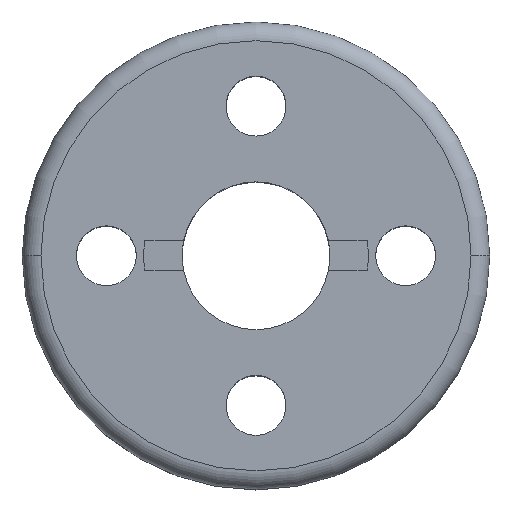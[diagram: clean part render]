
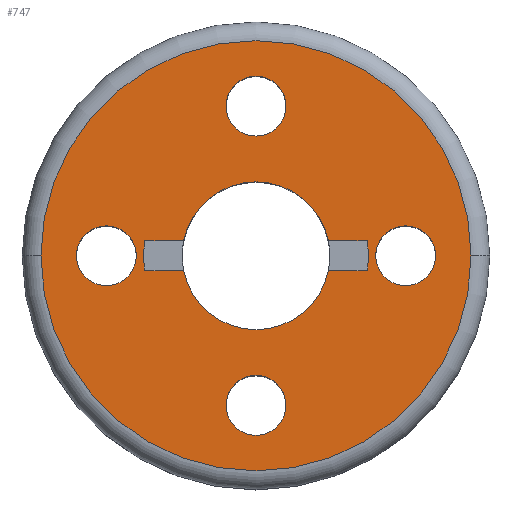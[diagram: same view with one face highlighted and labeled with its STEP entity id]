
A CAD part, top view. The second image highlights one B-rep face of the part: STEP entity #747.
In plain terms, the highlighted planar face has unit normal (0, 0, 1).
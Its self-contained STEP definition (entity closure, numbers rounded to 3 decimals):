
#48=AXIS2_PLACEMENT_3D('Circle Axis2P3D',#46,#47,$) ;
#115=AXIS2_PLACEMENT_3D('Circle Axis2P3D',#113,#114,$) ;
#176=AXIS2_PLACEMENT_3D('Circle Axis2P3D',#174,#175,$) ;
#195=AXIS2_PLACEMENT_3D('Circle Axis2P3D',#193,#194,$) ;
#280=AXIS2_PLACEMENT_3D('Circle Axis2P3D',#278,#279,$) ;
#306=AXIS2_PLACEMENT_3D('Circle Axis2P3D',#304,#305,$) ;
#488=AXIS2_PLACEMENT_3D('Circle Axis2P3D',#486,#487,$) ;
#514=AXIS2_PLACEMENT_3D('Circle Axis2P3D',#512,#513,$) ;
#531=AXIS2_PLACEMENT_3D('Circle Axis2P3D',#529,#530,$) ;
#557=AXIS2_PLACEMENT_3D('Circle Axis2P3D',#555,#556,$) ;
#574=AXIS2_PLACEMENT_3D('Circle Axis2P3D',#572,#573,$) ;
#600=AXIS2_PLACEMENT_3D('Circle Axis2P3D',#598,#599,$) ;
#617=AXIS2_PLACEMENT_3D('Circle Axis2P3D',#615,#616,$) ;
#643=AXIS2_PLACEMENT_3D('Circle Axis2P3D',#641,#642,$) ;
#699=AXIS2_PLACEMENT_3D('Plane Axis2P3D',#696,#697,#698) ;
#703=AXIS2_PLACEMENT_3D('Circle Axis2P3D',#701,#702,$) ;
#712=AXIS2_PLACEMENT_3D('Circle Axis2P3D',#710,#711,$) ;
#43=CARTESIAN_POINT('Vertex',(3.868,0.8,14.)) ;
#46=CARTESIAN_POINT('Axis2P3D Location',(0.,0.,14.)) ;
#50=CARTESIAN_POINT('Vertex',(-3.868,0.8,14.)) ;
#110=CARTESIAN_POINT('Vertex',(-3.868,-0.8,14.)) ;
#113=CARTESIAN_POINT('Axis2P3D Location',(0.,0.,14.)) ;
#117=CARTESIAN_POINT('Vertex',(3.868,-0.8,14.)) ;
#171=CARTESIAN_POINT('Vertex',(-6.,0.,14.)) ;
#174=CARTESIAN_POINT('Axis2P3D Location',(0.,0.,14.)) ;
#178=CARTESIAN_POINT('Vertex',(-5.946,-0.8,14.)) ;
#193=CARTESIAN_POINT('Axis2P3D Location',(0.,0.,14.)) ;
#197=CARTESIAN_POINT('Vertex',(-5.946,0.8,14.)) ;
#278=CARTESIAN_POINT('Axis2P3D Location',(0.,0.,14.)) ;
#282=CARTESIAN_POINT('Vertex',(5.946,-0.8,14.)) ;
#284=CARTESIAN_POINT('Vertex',(6.,0.,14.)) ;
#304=CARTESIAN_POINT('Axis2P3D Location',(0.,0.,14.)) ;
#308=CARTESIAN_POINT('Vertex',(5.946,0.8,14.)) ;
#328=CARTESIAN_POINT('Line Origine',(-4.907,0.8,14.)) ;
#340=CARTESIAN_POINT('Line Origine',(4.907,0.8,14.)) ;
#357=CARTESIAN_POINT('Line Origine',(4.907,-0.8,14.)) ;
#369=CARTESIAN_POINT('Line Origine',(-4.907,-0.8,14.)) ;
#486=CARTESIAN_POINT('Axis2P3D Location',(0.,8.,14.)) ;
#490=CARTESIAN_POINT('Vertex',(1.6,8.,14.)) ;
#492=CARTESIAN_POINT('Vertex',(-1.6,8.,14.)) ;
#512=CARTESIAN_POINT('Axis2P3D Location',(0.,8.,14.)) ;
#529=CARTESIAN_POINT('Axis2P3D Location',(-8.,0.,14.)) ;
#533=CARTESIAN_POINT('Vertex',(-6.4,0.,14.)) ;
#535=CARTESIAN_POINT('Vertex',(-9.6,0.,14.)) ;
#555=CARTESIAN_POINT('Axis2P3D Location',(-8.,0.,14.)) ;
#572=CARTESIAN_POINT('Axis2P3D Location',(0.,-8.,14.)) ;
#576=CARTESIAN_POINT('Vertex',(1.6,-8.,14.)) ;
#578=CARTESIAN_POINT('Vertex',(-1.6,-8.,14.)) ;
#598=CARTESIAN_POINT('Axis2P3D Location',(0.,-8.,14.)) ;
#615=CARTESIAN_POINT('Axis2P3D Location',(8.,0.,14.)) ;
#619=CARTESIAN_POINT('Vertex',(9.6,0.,14.)) ;
#621=CARTESIAN_POINT('Vertex',(6.4,0.,14.)) ;
#641=CARTESIAN_POINT('Axis2P3D Location',(8.,0.,14.)) ;
#696=CARTESIAN_POINT('Axis2P3D Location',(0.,0.,14.)) ;
#701=CARTESIAN_POINT('Axis2P3D Location',(0.,0.,14.)) ;
#705=CARTESIAN_POINT('Vertex',(-11.5,0.,14.)) ;
#707=CARTESIAN_POINT('Vertex',(11.5,0.,14.)) ;
#710=CARTESIAN_POINT('Axis2P3D Location',(0.,0.,14.)) ;
#47=DIRECTION('Axis2P3D Direction',(0.,0.,1.)) ;
#114=DIRECTION('Axis2P3D Direction',(0.,0.,1.)) ;
#175=DIRECTION('Axis2P3D Direction',(0.,0.,1.)) ;
#194=DIRECTION('Axis2P3D Direction',(0.,0.,1.)) ;
#279=DIRECTION('Axis2P3D Direction',(0.,0.,1.)) ;
#305=DIRECTION('Axis2P3D Direction',(0.,0.,1.)) ;
#329=DIRECTION('Vector Direction',(1.,0.,0.)) ;
#341=DIRECTION('Vector Direction',(1.,0.,0.)) ;
#358=DIRECTION('Vector Direction',(-1.,0.,0.)) ;
#370=DIRECTION('Vector Direction',(-1.,0.,0.)) ;
#487=DIRECTION('Axis2P3D Direction',(0.,0.,-1.)) ;
#513=DIRECTION('Axis2P3D Direction',(0.,0.,-1.)) ;
#530=DIRECTION('Axis2P3D Direction',(0.,0.,-1.)) ;
#556=DIRECTION('Axis2P3D Direction',(0.,0.,-1.)) ;
#573=DIRECTION('Axis2P3D Direction',(0.,0.,-1.)) ;
#599=DIRECTION('Axis2P3D Direction',(0.,0.,-1.)) ;
#616=DIRECTION('Axis2P3D Direction',(0.,0.,-1.)) ;
#642=DIRECTION('Axis2P3D Direction',(0.,0.,-1.)) ;
#697=DIRECTION('Axis2P3D Direction',(0.,0.,1.)) ;
#698=DIRECTION('Axis2P3D XDirection',(1.,0.,0.)) ;
#702=DIRECTION('Axis2P3D Direction',(0.,0.,1.)) ;
#711=DIRECTION('Axis2P3D Direction',(0.,0.,1.)) ;
#330=VECTOR('Line Direction',#329,1.) ;
#342=VECTOR('Line Direction',#341,1.) ;
#359=VECTOR('Line Direction',#358,1.) ;
#371=VECTOR('Line Direction',#370,1.) ;
#716=ORIENTED_EDGE('',*,*,#709,.T.) ;
#717=ORIENTED_EDGE('',*,*,#714,.T.) ;
#720=ORIENTED_EDGE('',*,*,#199,.F.) ;
#721=ORIENTED_EDGE('',*,*,#332,.T.) ;
#722=ORIENTED_EDGE('',*,*,#52,.F.) ;
#723=ORIENTED_EDGE('',*,*,#344,.T.) ;
#724=ORIENTED_EDGE('',*,*,#310,.F.) ;
#725=ORIENTED_EDGE('',*,*,#286,.F.) ;
#726=ORIENTED_EDGE('',*,*,#361,.T.) ;
#727=ORIENTED_EDGE('',*,*,#119,.F.) ;
#728=ORIENTED_EDGE('',*,*,#373,.T.) ;
#729=ORIENTED_EDGE('',*,*,#180,.F.) ;
#732=ORIENTED_EDGE('',*,*,#645,.F.) ;
#733=ORIENTED_EDGE('',*,*,#623,.F.) ;
#736=ORIENTED_EDGE('',*,*,#559,.F.) ;
#737=ORIENTED_EDGE('',*,*,#537,.F.) ;
#740=ORIENTED_EDGE('',*,*,#516,.F.) ;
#741=ORIENTED_EDGE('',*,*,#494,.F.) ;
#744=ORIENTED_EDGE('',*,*,#602,.F.) ;
#745=ORIENTED_EDGE('',*,*,#580,.F.) ;
#730=FACE_BOUND('',#719,.T.) ;
#734=FACE_BOUND('',#731,.T.) ;
#738=FACE_BOUND('',#735,.T.) ;
#742=FACE_BOUND('',#739,.T.) ;
#746=FACE_BOUND('',#743,.T.) ;
#747=ADVANCED_FACE('\X2\96F64EF651E04F554F53\X0\',(#718,#730,#734,#738,#742,#746),#700,.T.) ;
#49=CIRCLE('generated circle',#48,3.95) ;
#116=CIRCLE('generated circle',#115,3.95) ;
#177=CIRCLE('generated circle',#176,6.) ;
#196=CIRCLE('generated circle',#195,6.) ;
#281=CIRCLE('generated circle',#280,6.) ;
#307=CIRCLE('generated circle',#306,6.) ;
#489=CIRCLE('generated circle',#488,1.6) ;
#515=CIRCLE('generated circle',#514,1.6) ;
#532=CIRCLE('generated circle',#531,1.6) ;
#558=CIRCLE('generated circle',#557,1.6) ;
#575=CIRCLE('generated circle',#574,1.6) ;
#601=CIRCLE('generated circle',#600,1.6) ;
#618=CIRCLE('generated circle',#617,1.6) ;
#644=CIRCLE('generated circle',#643,1.6) ;
#704=CIRCLE('generated circle',#703,11.5) ;
#713=CIRCLE('generated circle',#712,11.5) ;
#52=EDGE_CURVE('',#44,#51,#49,.T.) ;
#119=EDGE_CURVE('',#111,#118,#116,.T.) ;
#180=EDGE_CURVE('',#172,#179,#177,.T.) ;
#199=EDGE_CURVE('',#198,#172,#196,.T.) ;
#286=EDGE_CURVE('',#283,#285,#281,.T.) ;
#310=EDGE_CURVE('',#285,#309,#307,.T.) ;
#332=EDGE_CURVE('',#198,#51,#331,.T.) ;
#344=EDGE_CURVE('',#44,#309,#343,.T.) ;
#361=EDGE_CURVE('',#283,#118,#360,.T.) ;
#373=EDGE_CURVE('',#111,#179,#372,.T.) ;
#494=EDGE_CURVE('',#491,#493,#489,.F.) ;
#516=EDGE_CURVE('',#493,#491,#515,.F.) ;
#537=EDGE_CURVE('',#534,#536,#532,.F.) ;
#559=EDGE_CURVE('',#536,#534,#558,.F.) ;
#580=EDGE_CURVE('',#577,#579,#575,.F.) ;
#602=EDGE_CURVE('',#579,#577,#601,.F.) ;
#623=EDGE_CURVE('',#620,#622,#618,.F.) ;
#645=EDGE_CURVE('',#622,#620,#644,.F.) ;
#709=EDGE_CURVE('',#706,#708,#704,.T.) ;
#714=EDGE_CURVE('',#708,#706,#713,.T.) ;
#715=EDGE_LOOP('',(#716,#717)) ;
#719=EDGE_LOOP('',(#720,#721,#722,#723,#724,#725,#726,#727,#728,#729)) ;
#731=EDGE_LOOP('',(#732,#733)) ;
#735=EDGE_LOOP('',(#736,#737)) ;
#739=EDGE_LOOP('',(#740,#741)) ;
#743=EDGE_LOOP('',(#744,#745)) ;
#718=FACE_OUTER_BOUND('',#715,.T.) ;
#331=LINE('Line',#328,#330) ;
#343=LINE('Line',#340,#342) ;
#360=LINE('Line',#357,#359) ;
#372=LINE('Line',#369,#371) ;
#700=PLANE('',#699) ;
#44=VERTEX_POINT('',#43) ;
#51=VERTEX_POINT('',#50) ;
#111=VERTEX_POINT('',#110) ;
#118=VERTEX_POINT('',#117) ;
#172=VERTEX_POINT('',#171) ;
#179=VERTEX_POINT('',#178) ;
#198=VERTEX_POINT('',#197) ;
#283=VERTEX_POINT('',#282) ;
#285=VERTEX_POINT('',#284) ;
#309=VERTEX_POINT('',#308) ;
#491=VERTEX_POINT('',#490) ;
#493=VERTEX_POINT('',#492) ;
#534=VERTEX_POINT('',#533) ;
#536=VERTEX_POINT('',#535) ;
#577=VERTEX_POINT('',#576) ;
#579=VERTEX_POINT('',#578) ;
#620=VERTEX_POINT('',#619) ;
#622=VERTEX_POINT('',#621) ;
#706=VERTEX_POINT('',#705) ;
#708=VERTEX_POINT('',#707) ;
